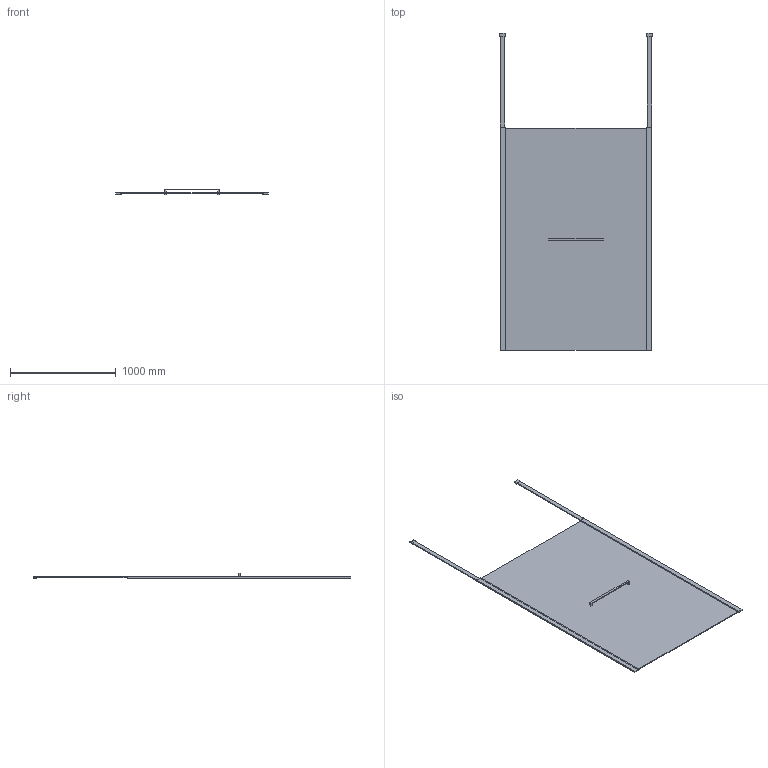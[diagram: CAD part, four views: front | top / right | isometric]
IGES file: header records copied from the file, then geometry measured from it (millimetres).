
Start section: SolidWorks IGES file using analytic representation for surfaces
Global section: file name: D:\Users\M.Szymanski\Desktop\Kabiny\PII_ALT2\03. do przegrania\PII_ALTIIa_140_wspornik pionowy_K3D.IGS; native system: SolidWorks 2011; preprocessor: SolidWorks 2011; author: M.Szymanski; date: 181003.110026; units: millimetre
Bounding box: 1439.8 x 3000 x 54.5 mm (x, y, z)
Surface area: 6578799.2 mm2 (no closed solid volume)
Topology: 0 solids, 0 shells, 61 faces, 396 edges, 528 vertices
Faces by surface type: bspline 61
